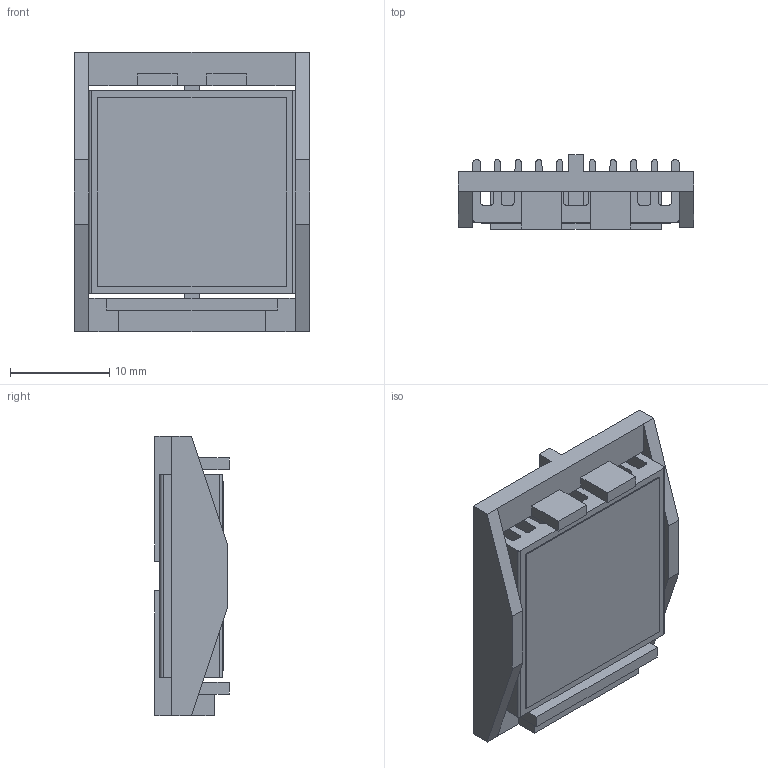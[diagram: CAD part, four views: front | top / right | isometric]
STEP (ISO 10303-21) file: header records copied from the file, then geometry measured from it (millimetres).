
FILE_DESCRIPTION (( 'STEP AP214' ), '1' );
FILE_NAME ('INL21001-6-1.7O.STEP', '2023-02-21T16:15:05', ( '' ), ( '' ), 'SwSTEP 2.0', 'SolidWorks 2020', '' );
FILE_SCHEMA (( 'AUTOMOTIVE_DESIGN' ));
Length unit declared in the file: millimetre
Products named in the file (1): INL21001-6-1.7O
Bounding box: 23.7 x 7.5 x 28.1 mm (x, y, z)
Volume: 2345.6 mm3; surface area: 5034.9 mm2
Topology: 3 solids, 3 shells, 116 faces, 332 edges, 220 vertices
Faces by surface type: plane 86, cylinder 30
Entity records: 5096 total; most frequent: CARTESIAN_POINT 669, ORIENTED_EDGE 664, DIRECTION 626, EDGE_CURVE 332, LINE 272, VECTOR 272, VERTEX_POINT 220, AXIS2_PLACEMENT_3D 177
